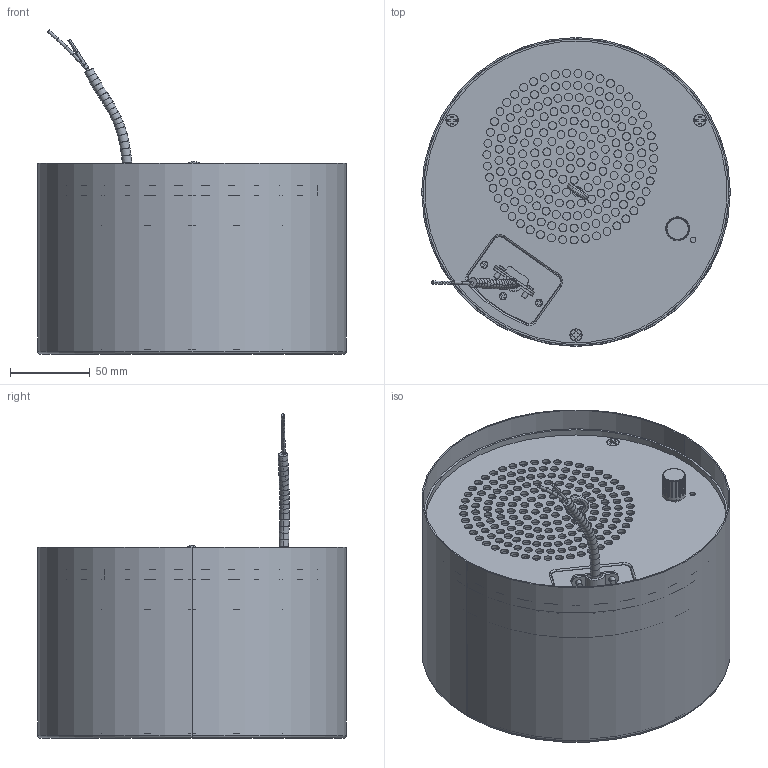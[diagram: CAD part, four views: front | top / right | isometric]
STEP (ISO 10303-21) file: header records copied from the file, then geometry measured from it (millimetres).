
FILE_DESCRIPTION (( 'STEP AP203' ), '1' );
FILE_NAME ('SMS-STR-W-3D drawing.STEP', '2020-10-21T15:26:17', ( 'scaryzero0@hotmail.com' ), ( '' ), 'SwSTEP 2.0', 'SolidWorks 2018', '' );
FILE_SCHEMA (( 'CONFIG_CONTROL_DESIGN' ));
Length unit declared in the file: millimetre
Products named in the file (13): ??2.stp; ??.stp; SMS-STR-W-3D drawing.stp; ???2.stp; A175-ED-6B-W-3D?_stp-4.stp; SMS-STR-W-3D drawing; A175-ED-6B-W-3D?_stp.stp; A175-ED-6B-W-3D?_stp-5.stp; ???3.stp; ???4.stp; A175-ED-6B-W-3D?_stp-6.stp
Assembly tree (18 placements, depth 3):
  SMS-STR-W-3D drawing
    SMS-STR-W-3D drawing.stp
      ??.stp
      ??.stp
      ???2.stp
      ???4.stp
      ???3.stp
      ??.stp  x3
      ??2.stp  x5
      A175-ED-6B-W-3D?_stp.stp
      A175-ED-6B-W-3D?_stp-4.stp
      A175-ED-6B-W-3D?_stp-5.stp
      A175-ED-6B-W-3D?_stp-6.stp
Bounding box: 194.1 x 194.1 x 204.07 mm (x, y, z)
Volume: 152207.1 mm3; surface area: 286602.5 mm2
Topology: 19 solids, 19 shells, 1401 faces, 3988 edges, 2639 vertices
Faces by surface type: cylinder 561, torus 504, plane 312, cone 14, sphere 8, bspline 2
Entity records: 45957 total; most frequent: DIRECTION 8866, CARTESIAN_POINT 7600, ORIENTED_EDGE 7296, AXIS2_PLACEMENT_3D 3966, EDGE_CURVE 3648, CIRCLE 2665, VERTEX_POINT 2413, EDGE_LOOP 1735
